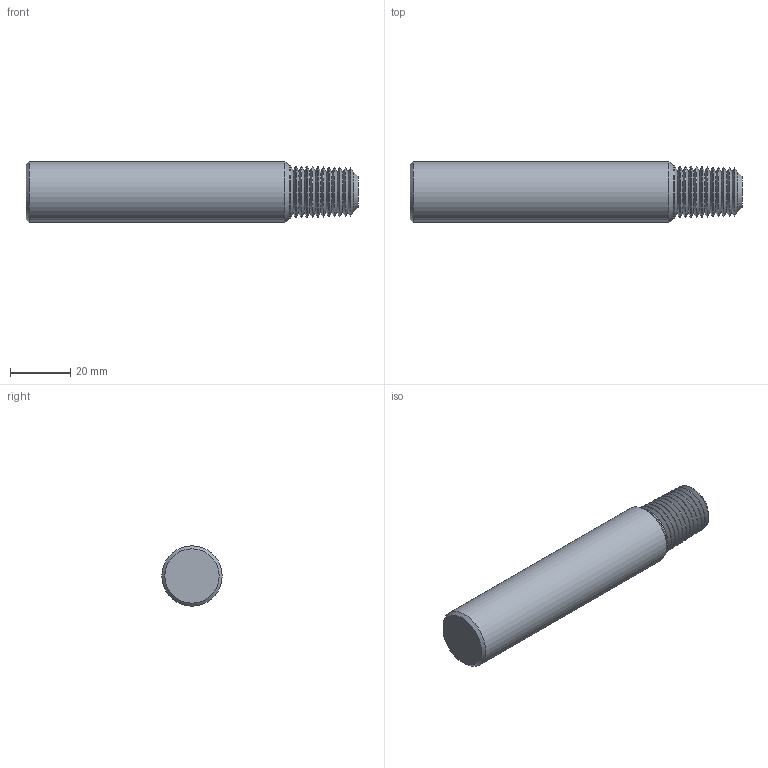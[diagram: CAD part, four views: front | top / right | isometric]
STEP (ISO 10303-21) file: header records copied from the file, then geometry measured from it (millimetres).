
FILE_DESCRIPTION(/* description */ (''),/* implementation_level */ '2;1');
FILE_NAME(/* name */ '171611-00036541-TDM',/* time_stamp */ '2024-02-21T13:17:13+01:00',/* author */ (''),/* organization */ (''),/* preprocessor_version */ 'ST-DEVELOPER v16.5',/* originating_system */ 'HiCAD 2017 2201.0 Build 268',/* authorisation */ '');
FILE_SCHEMA (('AUTOMOTIVE_DESIGN { 1 0 10303 214 1 1 1 1 }'));
Length unit declared in the file: millimetre
Products named in the file (3): Root; ROTATIONSTEIL_0
Assembly tree (2 placements, depth 3):
  Root
    ROTATIONSTEIL_0
      ROTATIONSTEIL_0
Bounding box: 110 x 20 x 20 mm (x, y, z)
Volume: 31361.1 mm3; surface area: 8159.2 mm2
Topology: 2 solids, 2 shells, 57 faces, 110 edges, 57 vertices
Faces by surface type: cone 27, torus 24, plane 4, cylinder 2
Full cylindrical faces by diameter (mm): 17.246 x1, 20 x1
Entity records: 1734 total; most frequent: DIRECTION 232, CARTESIAN_POINT 171, AXIS2_PLACEMENT_3D 116, PRESENTATION_STYLE_ASSIGNMENT 112, COLOUR_RGB 112, DRAUGHTING_PRE_DEFINED_CURVE_FONT 110, CURVE_STYLE 110, OVER_RIDING_STYLED_ITEM 110
